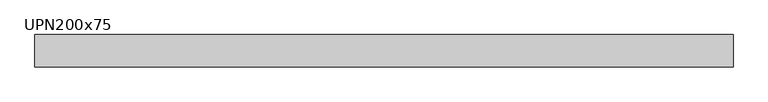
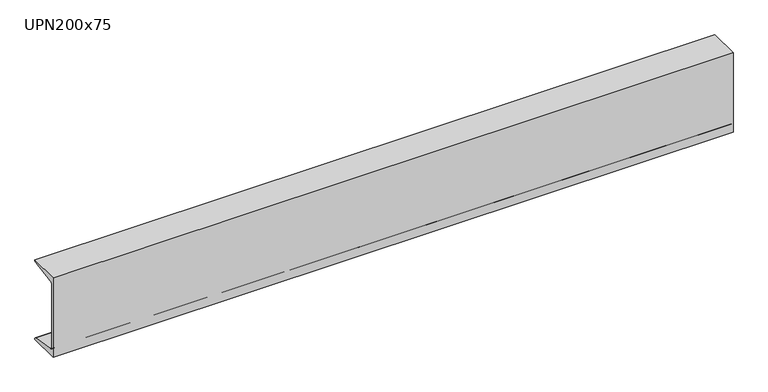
"""IFC4 building model written with IfcOpenShell, lengths in millimetres: beam geometry, M_MC Shapes : UPN200x75."""

from ifc_helpers import new_model, si_unit, point, frame, frame_2d, origin, place, context, project, spatial, polyline, circle_curve, trimmed, segment, composite_curve, outline, extrude, source, transform, mapped, element, save


def upn200x75_ef32aa81(model_context):
    return source(origin(), model_context, "Body", "SweptSolid", [
        extrude(outline(composite_curve([segment(polyline([(-10.9, 100.0), (64.1, 100.0), (64.1, 99.0253247)]), True, "CONTINUOUS"), segment(trimmed(circle_curve(frame_2d((60.15, 99.0253247)), 3.95), [point((64.1, 99.0253247))], [point((60.7993773, 95.1290689))], False, "CARTESIAN"), True, "CONTINUOUS"), segment(polyline([(60.7993773, 95.1290689), (0.2512455, 85.0376935)]), True, "CONTINUOUS"), segment(trimmed(circle_curve(frame_2d((1.55, 77.2451819)), 7.9), [point((0.2512455, 85.0376935))], [point((-6.35, 77.2451819))], True, "CARTESIAN"), True, "CONTINUOUS"), segment(polyline([(-6.35, 77.2451819), (-6.35, -77.2451819)]), True, "CONTINUOUS"), segment(trimmed(circle_curve(frame_2d((1.55, -77.2451819)), 7.9), [point((-6.35, -77.2451819))], [point((0.2512455, -85.0376935))], True, "CARTESIAN"), True, "CONTINUOUS"), segment(polyline([(0.2512455, -85.0376935), (60.7993773, -95.1290689)]), True, "CONTINUOUS"), segment(trimmed(circle_curve(frame_2d((60.15, -99.0253247)), 3.95), [point((60.7993773, -95.1290689))], [point((64.1, -99.0253247))], False, "CARTESIAN"), True, "CONTINUOUS"), segment(polyline([(64.1, -99.0253247), (64.1, -100.0), (-10.9, -100.0), (-10.9, 100.0)]), True, "CONTINUOUS")], self_intersect=False)), frame((-917.25, 0.0, 0.0), z_axis=(1.0, 0.0, 0.0), x_axis=(0.0, 1.0, 0.0)), (0.0, 0.0, 1.0), 1619.5),
    ])


if __name__ == "__main__":
    model = new_model("IFC4")
    model_context = context("Model", 3, world=origin())
    ifc_project = project(units=[si_unit("LENGTHUNIT", "METRE", prefix="MILLI")], contexts=[model_context])
    site = spatial("IfcSite", under=ifc_project)
    building = spatial("IfcBuilding", under=site)
    placement = place(None, origin())
    upn200x75_shape = upn200x75_ef32aa81(model_context)
    element("IfcBeam", 1, ObjectType="M_MC Shapes : UPN200x75", at=placement, inside=building, context=model_context, shape_type="MappedRepresentation", body=[
        mapped(upn200x75_shape, transform((0.0, 0.0, 0.0), x_axis=(1.0, 0.0, 0.0), y_axis=(0.0, 1.0, 0.0), z_axis=(0.0, 0.0, 1.0))),
    ])
    save(model, "model.ifc")
